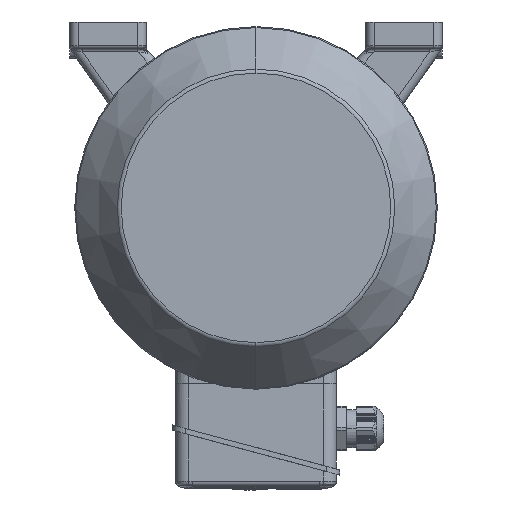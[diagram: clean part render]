
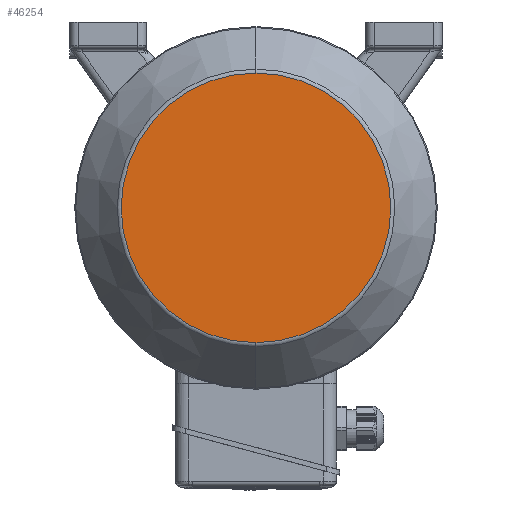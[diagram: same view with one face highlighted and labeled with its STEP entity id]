
A CAD part, left-side view. The second image highlights one B-rep face of the part: STEP entity #46254.
In plain terms, the highlighted planar face has unit normal (-1, 0, 0).
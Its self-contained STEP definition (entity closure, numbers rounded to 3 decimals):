
#275 = CARTESIAN_POINT ( 'NONE',  ( -220.5, 0., 0. ) ) ;
#4789 = AXIS2_PLACEMENT_3D ( 'NONE', #19532, #19355, #32113 ) ;
#6378 = ORIENTED_EDGE ( 'NONE', *, *, #10959, .F. ) ;
#6573 = CARTESIAN_POINT ( 'NONE',  ( -220.5, 0., 81.227 ) ) ;
#6694 = FACE_OUTER_BOUND ( 'NONE', #27604, .T. ) ;
#10959 = EDGE_CURVE ( 'NONE', #18015, #36866, #40862, .T. ) ;
#14106 = ORIENTED_EDGE ( 'NONE', *, *, #20623, .F. ) ;
#18015 = VERTEX_POINT ( 'NONE', #47616 ) ;
#19355 = DIRECTION ( 'NONE',  ( 1., 0., 0. ) ) ;
#19532 = CARTESIAN_POINT ( 'NONE',  ( -220.5, 0., 0. ) ) ;
#20623 = EDGE_CURVE ( 'NONE', #36866, #18015, #40630, .T. ) ;
#20889 = DIRECTION ( 'NONE',  ( -1., 0., 0. ) ) ;
#21067 = CARTESIAN_POINT ( 'NONE',  ( -220.5, 0., -81.227 ) ) ;
#24916 = PLANE ( 'NONE',  #53877 ) ;
#27604 = EDGE_LOOP ( 'NONE', ( #6378, #14106 ) ) ;
#32113 = DIRECTION ( 'NONE',  ( 0., 0., -1. ) ) ;
#33654 = DIRECTION ( 'NONE',  ( 0., 1., 0. ) ) ;
#36866 = VERTEX_POINT ( 'NONE', #6573 ) ;
#37884 = DIRECTION ( 'NONE',  ( 1., 0., 0. ) ) ;
#40630 = CIRCLE ( 'NONE', #53706, 81.227 ) ;
#40862 = CIRCLE ( 'NONE', #4789, 81.227 ) ;
#42420 = DIRECTION ( 'NONE',  ( 0., 0., -1. ) ) ;
#46254 = ADVANCED_FACE ( 'NONE', ( #6694 ), #24916, .T. ) ;
#47616 = CARTESIAN_POINT ( 'NONE',  ( -220.5, 0., -81.227 ) ) ;
#53706 = AXIS2_PLACEMENT_3D ( 'NONE', #275, #37884, #42420 ) ;
#53877 = AXIS2_PLACEMENT_3D ( 'NONE', #21067, #20889, #33654 ) ;
